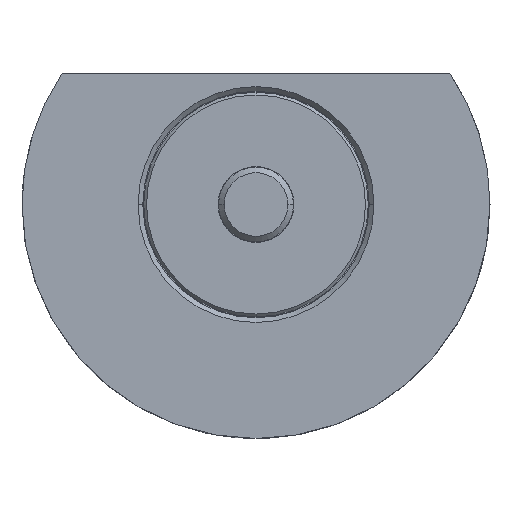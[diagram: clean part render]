
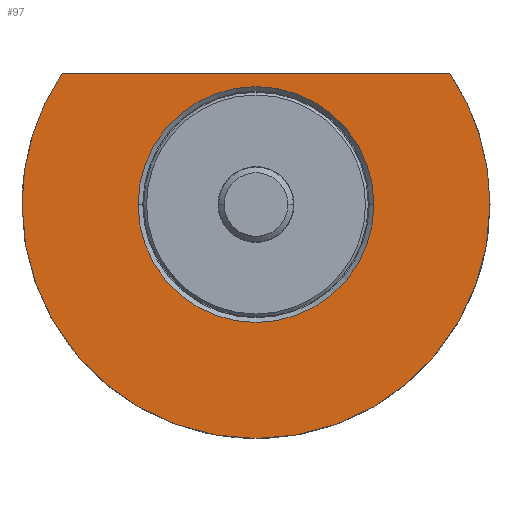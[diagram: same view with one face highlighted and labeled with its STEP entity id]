
A CAD part, front view. The second image highlights one B-rep face of the part: STEP entity #97.
In plain terms, the highlighted planar face has unit normal (0, -1, 0).
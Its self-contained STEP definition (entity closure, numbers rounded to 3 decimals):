
#72 = EDGE_CURVE ( 'NONE', #1552, #2120, #2408, .T. ) ;
#97 = ADVANCED_FACE ( 'NONE', ( #804, #1013 ), #246, .T. ) ;
#130 = VERTEX_POINT ( 'NONE', #1807 ) ;
#172 = CARTESIAN_POINT ( 'NONE',  ( 0., -12., 0. ) ) ;
#246 = PLANE ( 'NONE',  #1277 ) ;
#293 = CARTESIAN_POINT ( 'NONE',  ( -25., -12., 0. ) ) ;
#459 = DIRECTION ( 'NONE',  ( 0., 1., 0. ) ) ;
#517 = VERTEX_POINT ( 'NONE', #1437 ) ;
#529 = CIRCLE ( 'NONE', #1065, 12.6 ) ;
#585 = ORIENTED_EDGE ( 'NONE', *, *, #937, .F. ) ;
#654 = EDGE_CURVE ( 'NONE', #130, #2085, #2457, .T. ) ;
#660 = CARTESIAN_POINT ( 'NONE',  ( 0., -12., 0. ) ) ;
#663 = CARTESIAN_POINT ( 'NONE',  ( -12.6, -12., 0. ) ) ;
#681 = CARTESIAN_POINT ( 'NONE',  ( 20.712, -12., 14. ) ) ;
#687 = DIRECTION ( 'NONE',  ( 0., 1., 0. ) ) ;
#690 = LINE ( 'NONE', #1691, #758 ) ;
#716 = DIRECTION ( 'NONE',  ( 0., 1., 0. ) ) ;
#758 = VECTOR ( 'NONE', #1881, 1000. ) ;
#804 = FACE_BOUND ( 'NONE', #1218, .T. ) ;
#846 = DIRECTION ( 'NONE',  ( 0., -1., 0. ) ) ;
#852 = ORIENTED_EDGE ( 'NONE', *, *, #1366, .T. ) ;
#856 = EDGE_LOOP ( 'NONE', ( #585, #2537, #1267, #869 ) ) ;
#869 = ORIENTED_EDGE ( 'NONE', *, *, #654, .F. ) ;
#937 = EDGE_CURVE ( 'NONE', #2525, #130, #1879, .T. ) ;
#963 = AXIS2_PLACEMENT_3D ( 'NONE', #172, #2541, #2429 ) ;
#1013 = FACE_OUTER_BOUND ( 'NONE', #856, .T. ) ;
#1065 = AXIS2_PLACEMENT_3D ( 'NONE', #1283, #687, #2433 ) ;
#1077 = DIRECTION ( 'NONE',  ( 0., 1., 0. ) ) ;
#1089 = DIRECTION ( 'NONE',  ( -1., 0., 0. ) ) ;
#1181 = EDGE_CURVE ( 'NONE', #2525, #517, #690, .T. ) ;
#1218 = EDGE_LOOP ( 'NONE', ( #2490, #852 ) ) ;
#1248 = DIRECTION ( 'NONE',  ( 1., 0., 0. ) ) ;
#1267 = ORIENTED_EDGE ( 'NONE', *, *, #1743, .F. ) ;
#1277 = AXIS2_PLACEMENT_3D ( 'NONE', #663, #846, #1248 ) ;
#1283 = CARTESIAN_POINT ( 'NONE',  ( 0., -12., 0. ) ) ;
#1290 = CARTESIAN_POINT ( 'NONE',  ( 12.6, -12., 0. ) ) ;
#1366 = EDGE_CURVE ( 'NONE', #2120, #1552, #529, .T. ) ;
#1437 = CARTESIAN_POINT ( 'NONE',  ( -20.712, -12., 14. ) ) ;
#1505 = DIRECTION ( 'NONE',  ( -1., 0., 0. ) ) ;
#1552 = VERTEX_POINT ( 'NONE', #1290 ) ;
#1671 = CARTESIAN_POINT ( 'NONE',  ( -12.6, -12., 0. ) ) ;
#1691 = CARTESIAN_POINT ( 'NONE',  ( -12.6, -12., 14. ) ) ;
#1743 = EDGE_CURVE ( 'NONE', #2085, #517, #2364, .T. ) ;
#1745 = AXIS2_PLACEMENT_3D ( 'NONE', #660, #1077, #1089 ) ;
#1795 = DIRECTION ( 'NONE',  ( -1., 0., 0. ) ) ;
#1807 = CARTESIAN_POINT ( 'NONE',  ( 25., -12., 0. ) ) ;
#1879 = CIRCLE ( 'NONE', #963, 25. ) ;
#1881 = DIRECTION ( 'NONE',  ( -1., 0., 0. ) ) ;
#1954 = AXIS2_PLACEMENT_3D ( 'NONE', #2529, #716, #1505 ) ;
#2034 = CARTESIAN_POINT ( 'NONE',  ( 0., -12., 0. ) ) ;
#2085 = VERTEX_POINT ( 'NONE', #293 ) ;
#2120 = VERTEX_POINT ( 'NONE', #1671 ) ;
#2364 = CIRCLE ( 'NONE', #1954, 25. ) ;
#2408 = CIRCLE ( 'NONE', #2447, 12.6 ) ;
#2429 = DIRECTION ( 'NONE',  ( -1., 0., 0. ) ) ;
#2433 = DIRECTION ( 'NONE',  ( -1., 0., 0. ) ) ;
#2447 = AXIS2_PLACEMENT_3D ( 'NONE', #2034, #459, #1795 ) ;
#2457 = CIRCLE ( 'NONE', #1745, 25. ) ;
#2490 = ORIENTED_EDGE ( 'NONE', *, *, #72, .T. ) ;
#2525 = VERTEX_POINT ( 'NONE', #681 ) ;
#2529 = CARTESIAN_POINT ( 'NONE',  ( 0., -12., 0. ) ) ;
#2537 = ORIENTED_EDGE ( 'NONE', *, *, #1181, .T. ) ;
#2541 = DIRECTION ( 'NONE',  ( 0., 1., 0. ) ) ;
